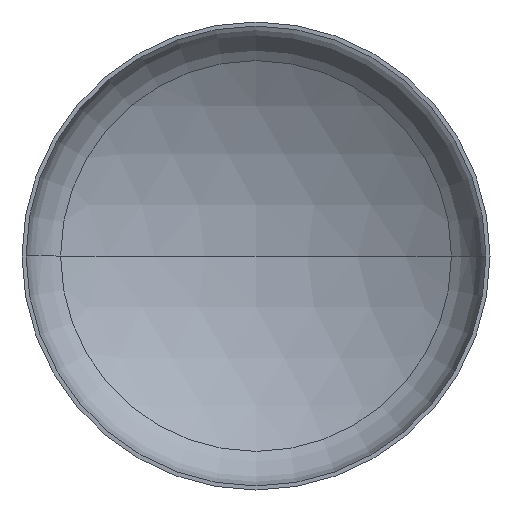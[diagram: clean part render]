
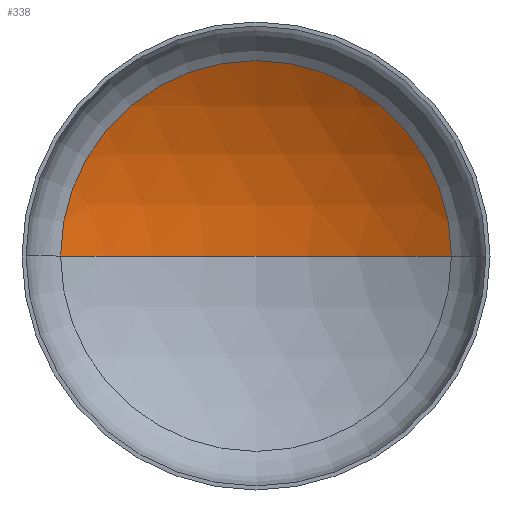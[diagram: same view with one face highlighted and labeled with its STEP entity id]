
A CAD part, front view. The second image highlights one B-rep face of the part: STEP entity #338.
In plain terms, the highlighted spherical face has radius 1920 mm.
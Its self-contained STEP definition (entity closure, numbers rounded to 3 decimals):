
#1 = AXIS2_PLACEMENT_3D ( 'NONE', #379, #132, #369 ) ;
#9 = ORIENTED_EDGE ( 'NONE', *, *, #157, .F. ) ;
#27 = VERTEX_POINT ( 'NONE', #362 ) ;
#31 = EDGE_LOOP ( 'NONE', ( #9, #104, #54 ) ) ;
#39 = AXIS2_PLACEMENT_3D ( 'NONE', #351, #208, #196 ) ;
#41 = AXIS2_PLACEMENT_3D ( 'NONE', #263, #257, #283 ) ;
#44 = AXIS2_PLACEMENT_3D ( 'NONE', #200, #202, #203 ) ;
#54 = ORIENTED_EDGE ( 'NONE', *, *, #95, .T. ) ;
#64 = VERTEX_POINT ( 'NONE', #251 ) ;
#95 = EDGE_CURVE ( 'NONE', #64, #105, #381, .T. ) ;
#104 = ORIENTED_EDGE ( 'NONE', *, *, #140, .T. ) ;
#105 = VERTEX_POINT ( 'NONE', #204 ) ;
#132 = DIRECTION ( 'NONE',  ( 0., 0., -1. ) ) ;
#138 = CIRCLE ( 'NONE', #39, 1920. ) ;
#140 = EDGE_CURVE ( 'NONE', #27, #64, #138, .T. ) ;
#157 = EDGE_CURVE ( 'NONE', #27, #105, #309, .T. ) ;
#196 = DIRECTION ( 'NONE',  ( -1., 0., 0. ) ) ;
#200 = CARTESIAN_POINT ( 'NONE',  ( 0., 385.604, 0. ) ) ;
#202 = DIRECTION ( 'NONE',  ( 0., -1., 0. ) ) ;
#203 = DIRECTION ( 'NONE',  ( 1., 0., 0. ) ) ;
#204 = CARTESIAN_POINT ( 'NONE',  ( -1002.116, 385.604, 0. ) ) ;
#208 = DIRECTION ( 'NONE',  ( 0., 0., -1. ) ) ;
#251 = CARTESIAN_POINT ( 'NONE',  ( 1002.116, 385.604, 0. ) ) ;
#257 = DIRECTION ( 'NONE',  ( 0., 0., 1. ) ) ;
#263 = CARTESIAN_POINT ( 'NONE',  ( 0., -1252.127, 0. ) ) ;
#277 = SPHERICAL_SURFACE ( 'NONE', #1, 1920. ) ;
#283 = DIRECTION ( 'NONE',  ( 1., 0., 0. ) ) ;
#309 = CIRCLE ( 'NONE', #41, 1920. ) ;
#338 = ADVANCED_FACE ( 'NONE', ( #399 ), #277, .F. ) ;
#351 = CARTESIAN_POINT ( 'NONE',  ( 0., -1252.127, 0. ) ) ;
#362 = CARTESIAN_POINT ( 'NONE',  ( 0., 667.873, 0. ) ) ;
#369 = DIRECTION ( 'NONE',  ( -1., 0., 0. ) ) ;
#379 = CARTESIAN_POINT ( 'NONE',  ( 0., -1252.127, 0. ) ) ;
#381 = CIRCLE ( 'NONE', #44, 1002.116 ) ;
#399 = FACE_OUTER_BOUND ( 'NONE', #31, .T. ) ;
